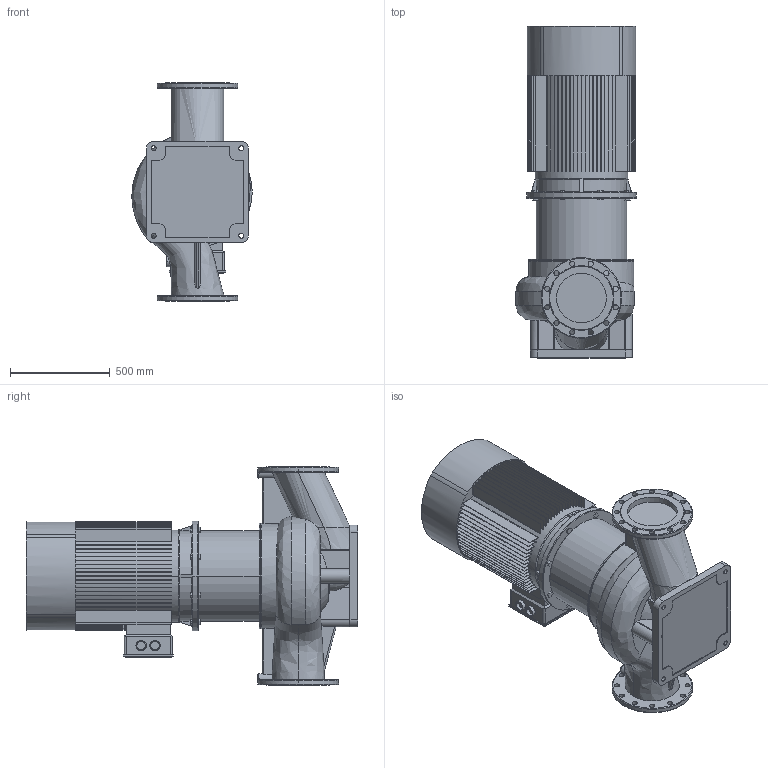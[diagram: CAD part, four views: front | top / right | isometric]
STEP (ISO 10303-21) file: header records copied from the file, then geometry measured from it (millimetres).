
FILE_DESCRIPTION (( 'STEP AP203' ), '1' );
FILE_NAME ('TD250-26_4.STEP', '2022-05-02T18:08:43', ( '' ), ( '' ), 'SwSTEP 2.0', 'SolidWorks 2019', '' );
FILE_SCHEMA (( 'CONFIG_CONTROL_DESIGN' ));
Length unit declared in the file: millimetre
Products named in the file (4): Pr_ch 250_TD250-26_4; Fon_250_TD250-26_4; ED_B5_YE2-280S-4 (75); TD250-26_4
Assembly tree (3 placements, depth 2):
  TD250-26_4
    Pr_ch 250_TD250-26_4
    Fon_250_TD250-26_4
    ED_B5_YE2-280S-4 (75)
Bounding box: 604.74 x 1667 x 1100 mm (x, y, z)
Volume: 313944248.8 mm3; surface area: 8962388.4 mm2
Topology: 13 solids, 15 shells, 826 faces, 2247 edges, 1490 vertices
Faces by surface type: plane 567, cylinder 188, torus 34, bspline 20, cone 17
Entity records: 35430 total; most frequent: CARTESIAN_POINT 13657, ORIENTED_EDGE 4494, DIRECTION 4440, EDGE_CURVE 2247, AXIS2_PLACEMENT_3D 1528, VERTEX_POINT 1490, LINE 1384, VECTOR 1384
